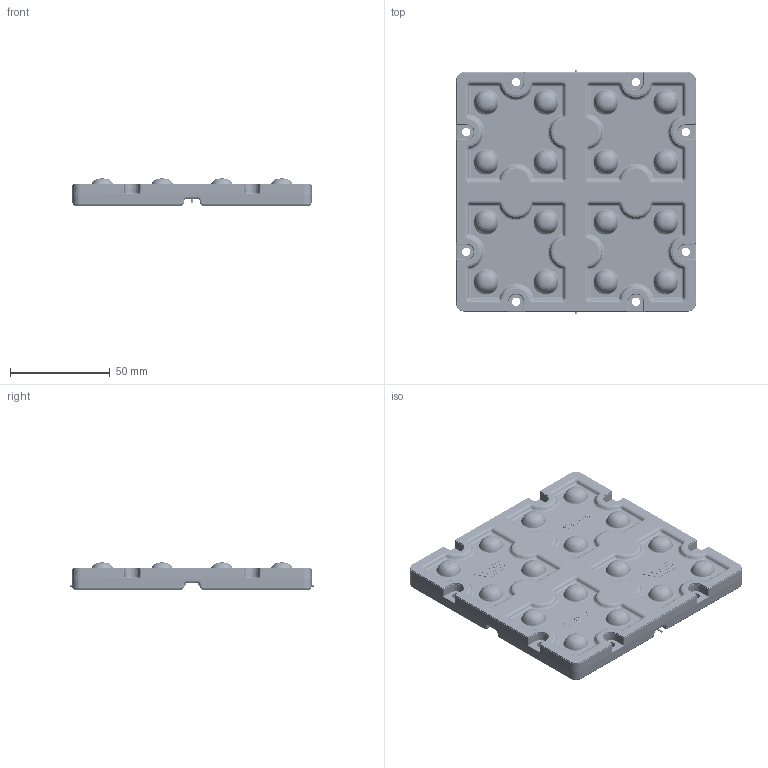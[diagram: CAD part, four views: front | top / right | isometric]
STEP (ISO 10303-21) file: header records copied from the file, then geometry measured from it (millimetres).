
FILE_DESCRIPTION (( 'STEP AP214' ), '1' );
FILE_NAME ('WU-M-515 Modul-Assembling.STEP', '2018-02-19T06:47:24', ( 'Admin' ), ( 'Microsoft' ), 'SwSTEP 2.0', 'SolidWorks 2017', '' );
FILE_SCHEMA (( 'AUTOMOTIVE_DESIGN' ));
Length unit declared in the file: millimetre
Products named in the file (54): R0805; DuOp 97700-11915V0-565076-16-fach-SXM-II; CREE XP-x; PCB-Base; 001636-H1.1395-A2 Thermal Tape; Kabel-2; 001636-M1.6025-A4 Carrier MClass ; Kabel-1; WU-M-515 Modul-Assembling; Built-In LED Module-4mm; VSO-Logo-3mm; SUB_SMA SS14L; WU-M-515 PCB Assembly 
Assembly tree (42 placements, depth 3):
  R0805
  DuOp 97700-11915V0-565076-16-fach-SXM-II
  CREE XP-x
  R0805
  PCB-Base
Bounding box: 120 x 122.16 x 13.59 mm (x, y, z)
Volume: 102505.4 mm3; surface area: 119815.2 mm2
Topology: 45 solids, 62 shells, 6399 faces, 15940 edges, 9914 vertices
Faces by surface type: plane 3031, cylinder 1578, bspline 1378, cone 143, sphere 137, torus 132
Entity records: 412799 total; most frequent: CARTESIAN_POINT 295777, ORIENTED_EDGE 23318, DIRECTION 19097, EDGE_CURVE 11719, VERTEX_POINT 7274, AXIS2_PLACEMENT_3D 6697, LINE 5703, VECTOR 5703
